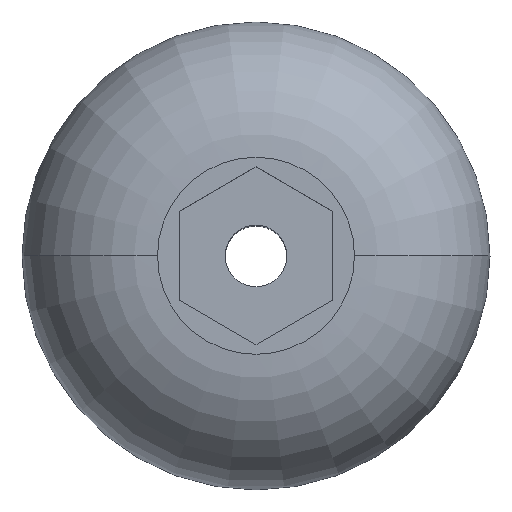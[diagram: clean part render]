
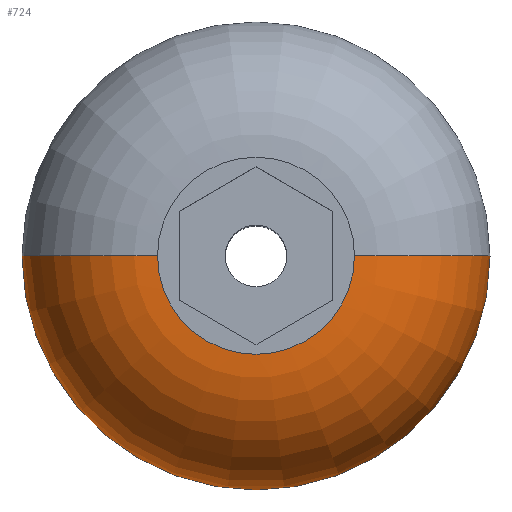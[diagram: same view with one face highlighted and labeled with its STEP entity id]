
A CAD part, top view. The second image highlights one B-rep face of the part: STEP entity #724.
In plain terms, the highlighted toroidal (fillet/blend) face has major radius 1.6 mm and minor radius 2.2 mm.
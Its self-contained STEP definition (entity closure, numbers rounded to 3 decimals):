
#11 = EDGE_LOOP ( 'NONE', ( #377, #342, #698, #888 ) ) ;
#66 = DIRECTION ( 'NONE',  ( 0., 0., 1. ) ) ;
#71 = CARTESIAN_POINT ( 'NONE',  ( 0., 0., 0. ) ) ;
#86 = CIRCLE ( 'NONE', #1609, 2.2 ) ;
#116 = TOROIDAL_SURFACE ( 'NONE', #471, 1.6, 2.2 ) ;
#123 = CARTESIAN_POINT ( 'NONE',  ( 1.6, 0., 2.2 ) ) ;
#262 = DIRECTION ( 'NONE',  ( 0., -1., 0. ) ) ;
#326 = CIRCLE ( 'NONE', #894, 1.6 ) ;
#342 = ORIENTED_EDGE ( 'NONE', *, *, #1447, .T. ) ;
#364 = EDGE_CURVE ( 'NONE', #952, #616, #397, .T. ) ;
#369 = DIRECTION ( 'NONE',  ( 0., 0., -1. ) ) ;
#377 = ORIENTED_EDGE ( 'NONE', *, *, #364, .F. ) ;
#397 = CIRCLE ( 'NONE', #443, 2.2 ) ;
#443 = AXIS2_PLACEMENT_3D ( 'NONE', #1349, #1091, #1595 ) ;
#471 = AXIS2_PLACEMENT_3D ( 'NONE', #511, #1516, #1061 ) ;
#511 = CARTESIAN_POINT ( 'NONE',  ( 0., 0., 0. ) ) ;
#614 = VERTEX_POINT ( 'NONE', #1033 ) ;
#616 = VERTEX_POINT ( 'NONE', #1028 ) ;
#698 = ORIENTED_EDGE ( 'NONE', *, *, #1265, .T. ) ;
#724 = ADVANCED_FACE ( 'NONE', ( #790 ), #116, .T. ) ;
#730 = DIRECTION ( 'NONE',  ( 1., 0., 0. ) ) ;
#790 = FACE_OUTER_BOUND ( 'NONE', #11, .T. ) ;
#853 = EDGE_CURVE ( 'NONE', #616, #1235, #326, .T. ) ;
#888 = ORIENTED_EDGE ( 'NONE', *, *, #853, .F. ) ;
#894 = AXIS2_PLACEMENT_3D ( 'NONE', #1339, #1596, #730 ) ;
#952 = VERTEX_POINT ( 'NONE', #999 ) ;
#999 = CARTESIAN_POINT ( 'NONE',  ( -3.8, 0., 0. ) ) ;
#1028 = CARTESIAN_POINT ( 'NONE',  ( -1.6, 0., 2.2 ) ) ;
#1033 = CARTESIAN_POINT ( 'NONE',  ( 3.8, 0., 0. ) ) ;
#1061 = DIRECTION ( 'NONE',  ( 1., 0., 0. ) ) ;
#1091 = DIRECTION ( 'NONE',  ( 0., 1., 0. ) ) ;
#1235 = VERTEX_POINT ( 'NONE', #123 ) ;
#1265 = EDGE_CURVE ( 'NONE', #614, #1235, #86, .T. ) ;
#1339 = CARTESIAN_POINT ( 'NONE',  ( 0., 0., 2.2 ) ) ;
#1349 = CARTESIAN_POINT ( 'NONE',  ( -1.6, 0., 0. ) ) ;
#1447 = EDGE_CURVE ( 'NONE', #952, #614, #1602, .T. ) ;
#1459 = DIRECTION ( 'NONE',  ( 1., 0., 0. ) ) ;
#1515 = CARTESIAN_POINT ( 'NONE',  ( 1.6, 0., 0. ) ) ;
#1516 = DIRECTION ( 'NONE',  ( 0., 0., 1. ) ) ;
#1524 = AXIS2_PLACEMENT_3D ( 'NONE', #71, #66, #1459 ) ;
#1595 = DIRECTION ( 'NONE',  ( -1., 0., 0. ) ) ;
#1596 = DIRECTION ( 'NONE',  ( 0., 0., 1. ) ) ;
#1602 = CIRCLE ( 'NONE', #1524, 3.8 ) ;
#1609 = AXIS2_PLACEMENT_3D ( 'NONE', #1515, #262, #369 ) ;
